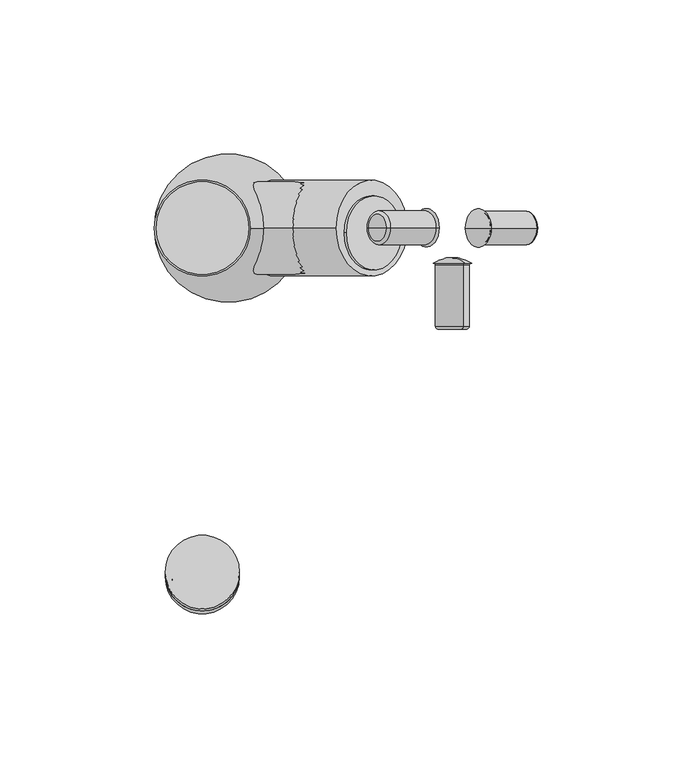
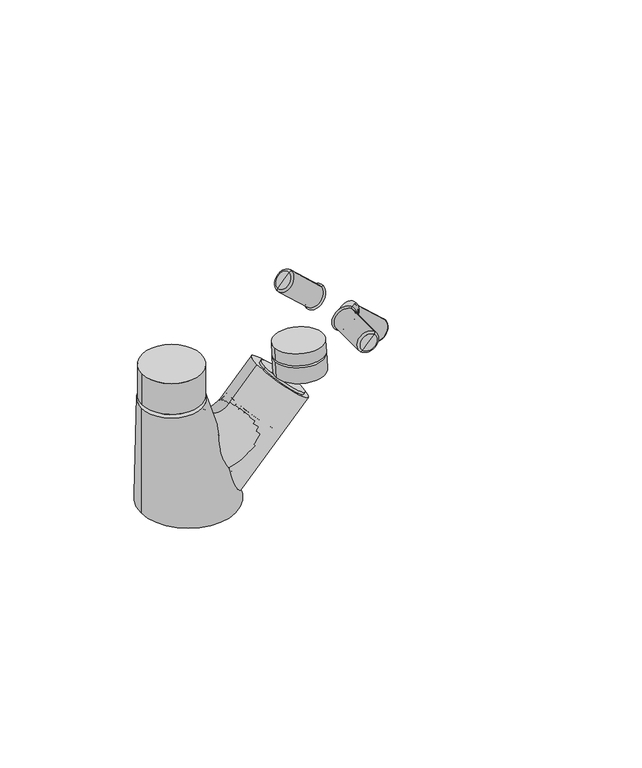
"""IFC4 building model written with IfcOpenShell, lengths in millimetres: flow terminal geometry, Torneira de mesa para copas e áreas de serviço : Torneira de mesa para copas e áreas de serviço."""

from ifc_helpers import new_model, si_unit, point, frame, frame_2d, origin, origin_2d, place, context, project, spatial, circle_curve, ellipse_curve, trimmed, segment, composite_curve, outline, extrude, source, transform, mapped, element, save
from ifc_brep_helpers import plane_surface, cylinder_surface, revolved_surface, spline_curve, spline_surface, advanced_brep


def flow_terminal_f574be0a(model_context):
    return source(origin(), model_context, "Body", "SolidModel", [
        extrude(outline(composite_curve([segment(trimmed(circle_curve(origin_2d(), 12.0), [point((-12.0, 0.0))], [point((12.0, 0.0))], False, "CARTESIAN"), True, "CONTINUOUS"), segment(trimmed(circle_curve(origin_2d(), 12.0), [point((12.0, 0.0))], [point((-12.0, 0.0))], False, "CARTESIAN"), True, "CONTINUOUS")], self_intersect=False)), frame((-8.4551298, -113.0675793, 139.476141), z_axis=(0.0, 0.10570911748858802, 0.9943970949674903), x_axis=(1.0, 0.0, 0.0)), (0.0, 0.0, 1.0), 7.9728756),
        extrude(outline(composite_curve([segment(trimmed(circle_curve(origin_2d(), 10.0), [point((-10.0, 0.0))], [point((10.0, 0.0))], False, "CARTESIAN"), True, "CONTINUOUS"), segment(trimmed(circle_curve(origin_2d(), 10.0), [point((10.0, 0.0))], [point((-10.0, 0.0))], False, "CARTESIAN"), True, "CONTINUOUS")], self_intersect=False)), frame((-8.4551298, -112.2247736, 147.4043454), z_axis=(0.0, 0.10570911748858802, 0.9943970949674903), x_axis=(1.0, 0.0, 0.0)), (0.0, 0.0, 1.0), 1.0255378),
        extrude(outline(composite_curve([segment(trimmed(circle_curve(origin_2d(), 12.0), [point((-12.0, 0.0))], [point((12.0, 0.0))], False, "CARTESIAN"), True, "CONTINUOUS"), segment(trimmed(circle_curve(origin_2d(), 12.0), [point((12.0, 0.0))], [point((-12.0, 0.0))], False, "CARTESIAN"), True, "CONTINUOUS")], self_intersect=False)), frame((-8.4551298, -112.1145402, 148.4413025), z_axis=(0.0, 0.10570911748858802, 0.9943970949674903), x_axis=(1.0, 0.0, 0.0)), (0.0, 0.0, 1.0), 6.0),
        advanced_brep(
        [(22.7675218, 0.0, 44.4138419), (45.0255071, 0.0, 24.2996159), (6.5448702, 0.0, 48.0435906), (-23.4551298, 0.0, 48.0435906)],
        [
            (0, 1, spline_curve(3, [(22.7675218, 0.0, 44.4138419), (22.7675218, -1.963495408, 44.4138419), (23.057254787, -3.926533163, 44.152014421), (24.172077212, -7.553969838, 43.144565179), (24.997166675, -9.218368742, 42.398943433), (27.057089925, -11.994834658, 40.537419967), (28.291923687, -13.106901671, 39.421518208), (30.983343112, -14.609484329, 36.989320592), (32.439928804, -15.0, 35.673024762), (35.353100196, -15.0, 33.040433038), (36.809685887, -14.609484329, 31.724137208), (39.501105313, -13.106901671, 29.291939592), (40.735939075, -11.994834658, 28.176037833), (42.795862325, -9.218368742, 26.314514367), (43.620951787, -7.553969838, 25.568892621), (44.735774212, -3.926533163, 24.561443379), (45.0255071, -1.963495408, 24.2996159), (45.0255071, 0.0, 24.2996159)], [4, 2, 2, 2, 2, 2, 2, 2, 4], [0.0, 0.125, 0.25, 0.375, 0.5, 0.625, 0.75, 0.875, 1.0])),
            (1, 0, spline_curve(3, [(45.0255071, 0.0, 24.2996159), (45.0255071, 1.963495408, 24.2996159), (44.735774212, 3.926533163, 24.561443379), (43.620951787, 7.553969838, 25.568892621), (42.795862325, 9.218368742, 26.314514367), (40.735939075, 11.994834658, 28.176037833), (39.501105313, 13.106901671, 29.291939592), (36.809685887, 14.609484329, 31.724137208), (35.353100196, 15.0, 33.040433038), (32.439928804, 15.0, 35.673024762), (30.983343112, 14.609484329, 36.989320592), (28.291923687, 13.106901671, 39.421518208), (27.057089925, 11.994834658, 40.537419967), (24.997166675, 9.218368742, 42.398943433), (24.172077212, 7.553969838, 43.144565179), (23.057254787, 3.926533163, 44.152014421), (22.7675218, 1.963495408, 44.4138419), (22.7675218, 0.0, 44.4138419)], [4, 2, 2, 2, 2, 2, 2, 2, 4], [0.0, 0.125, 0.25, 0.375, 0.5, 0.625, 0.75, 0.875, 1.0])),
            (2, 3, spline_curve(3, [(6.5448702, 0.0, 48.0435906), (6.5448702, 1.963495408, 48.0435906), (6.15435925, 3.926533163, 48.0435906), (4.65176715, 7.553969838, 48.0435906), (3.539685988, 9.218368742, 48.0435906), (0.763257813, 11.994834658, 48.0435906), (-0.901089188, 13.106901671, 48.0435906), (-4.528667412, 14.609484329, 48.0435906), (-6.491898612, 15.0, 48.0435906), (-10.418360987, 15.0, 48.0435906), (-12.381592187, 14.609484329, 48.0435906), (-16.009170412, 13.106901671, 48.0435906), (-17.673517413, 11.994834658, 48.0435906), (-20.449945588, 9.218368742, 48.0435906), (-21.56202675, 7.553969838, 48.0435906), (-23.06461885, 3.926533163, 48.0435906), (-23.4551298, 1.963495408, 48.0435906), (-23.4551298, 0.0, 48.0435906)], [4, 2, 2, 2, 2, 2, 2, 2, 4], [0.0, 0.125, 0.25, 0.375, 0.5, 0.625, 0.75, 0.875, 1.0])),
            (3, 2, spline_curve(3, [(-23.4551298, 0.0, 48.0435906), (-23.4551298, -1.963495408, 48.0435906), (-23.06461885, -3.926533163, 48.0435906), (-21.56202675, -7.553969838, 48.0435906), (-20.449945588, -9.218368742, 48.0435906), (-17.673517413, -11.994834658, 48.0435906), (-16.009170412, -13.106901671, 48.0435906), (-12.381592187, -14.609484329, 48.0435906), (-10.418360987, -15.0, 48.0435906), (-6.491898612, -15.0, 48.0435906), (-4.528667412, -14.609484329, 48.0435906), (-0.901089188, -13.106901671, 48.0435906), (0.763257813, -11.994834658, 48.0435906), (3.539685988, -9.218368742, 48.0435906), (4.65176715, -7.553969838, 48.0435906), (6.15435925, -3.926533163, 48.0435906), (6.5448702, -1.963495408, 48.0435906), (6.5448702, 0.0, 48.0435906)], [4, 2, 2, 2, 2, 2, 2, 2, 4], [0.0, 0.125, 0.25, 0.375, 0.5, 0.625, 0.75, 0.875, 1.0])),
            (0, 2, spline_curve(3, [(22.7675218, 0.0, 44.4138419), (21.358541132, 0.0, 42.854693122), (20.102948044, 0.0, 41.876241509), (18.002665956, 0.0, 40.600103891), (17.157976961, 0.0, 40.302417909), (15.644225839, 0.0, 39.980769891), (14.975163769, 0.0, 39.956807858), (13.562130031, 0.0, 40.136563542), (12.818158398, 0.0, 40.340281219), (11.293728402, 0.0, 41.035974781), (10.513270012, 0.0, 41.527950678), (9.089014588, 0.0, 42.734288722), (8.445217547, 0.0, 43.448650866), (7.435656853, 0.0, 44.917552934), (7.069893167, 0.0, 45.672092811), (6.624499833, 0.0, 47.002627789), (6.5448702, 0.0, 47.578622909), (6.5448702, 0.0, 48.0435906)], [4, 2, 2, 2, 2, 2, 2, 2, 4], [0.0, 0.010112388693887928, 0.020224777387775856, 0.030337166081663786, 0.04044955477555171, 0.05056194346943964, 0.06067433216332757, 0.07078672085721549, 0.08089910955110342])),
            (3, 1, spline_curve(3, [(-23.4551298, 0.0, 48.0435906), (-23.4551298, 0.0, 44.142619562), (-22.784690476, 0.0, 40.381911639), (-20.461487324, 0.0, 33.377963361), (-18.808723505, 0.0, 30.134723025), (-14.744450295, 0.0, 24.227438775), (-12.332940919, 0.0, 21.563394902), (-6.841484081, 0.0, 16.912746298), (-3.761536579, 0.0, 14.926141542), (3.008264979, 0.0, 11.844950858), (6.698119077, 0.0, 10.750364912), (14.494477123, 0.0, 9.794241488), (18.600980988, 0.0, 9.932704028), (26.748422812, 0.0, 11.677084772), (30.789360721, 0.0, 13.283002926), (38.338713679, 0.0, 17.835704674), (41.847128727, 0.0, 20.782488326), (45.0255071, 0.0, 24.2996159)], [4, 2, 2, 2, 2, 2, 2, 2, 4], [0.0, 0.010112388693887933, 0.020224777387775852, 0.030337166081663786, 0.04044955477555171, 0.05056194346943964, 0.06067433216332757, 0.07078672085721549, 0.08089910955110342])),
        ],
        [
            plane_surface(frame((33.8965145, 0.0, 34.3567289), z_axis=(0.6704742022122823, 0.0, 0.741932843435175), x_axis=(0.0, -1.0, 0.0))),
            plane_surface(frame((-8.4551298, 0.0, 48.0435906), z_axis=(0.0, 0.0, 1.0), x_axis=(0.0, -1.0, 0.0))),
            spline_surface(3, 3, [[(22.7675218, 0.0, 44.4138419), (22.7675218, -1.963495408, 44.4138419), (23.057254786, -3.926533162, 44.152014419), (24.172077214, -7.553969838, 43.144565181), (24.997166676, -9.218368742, 42.398943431), (27.057089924, -11.994834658, 40.537419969), (28.291923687, -13.106901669, 39.421518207), (30.983343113, -14.609484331, 36.989320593), (32.439928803, -15.0, 35.673024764), (35.353100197, -15.0, 33.040433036), (36.809685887, -14.609484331, 31.724137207), (39.501105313, -13.106901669, 29.291939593), (40.735939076, -11.994834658, 28.176037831), (42.795862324, -9.218368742, 26.314514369), (43.620951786, -7.553969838, 25.568892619), (44.735774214, -3.926533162, 24.561443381), (45.0255071, -1.963495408, 24.2996159), (45.0255071, 0.0, 24.2996159)], [(21.358541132, 0.0, 42.854693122), (21.358541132, -1.963495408, 42.854693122), (21.625247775, -3.926533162, 42.567385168), (22.651435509, -7.553969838, 41.461854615), (23.410951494, -9.218368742, 40.643670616), (25.307099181, -11.994834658, 38.600916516), (26.443795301, -13.106901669, 37.376417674), (28.921231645, -14.609484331, 34.70743082), (30.262056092, -15.0, 33.263036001), (32.943613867, -15.0, 30.374145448), (34.284438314, -14.609484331, 28.929750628), (36.761874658, -13.106901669, 26.260763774), (37.898570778, -11.994834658, 25.036264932), (39.794718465, -9.218368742, 22.993510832), (40.55423445, -7.553969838, 22.175326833), (41.580422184, -3.926533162, 21.069796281), (41.847128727, -1.963495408, 20.782488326), (41.847128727, 0.0, 20.782488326)], [(20.102948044, 0.0, 41.876241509), (20.102948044, -1.963495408, 41.876241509), (20.340347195, -3.926533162, 41.563132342), (21.253664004, -7.553969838, 40.359373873), (21.929719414, -9.218368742, 39.467714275), (23.617308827, -11.994834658, 37.243458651), (24.629097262, -13.106901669, 35.908995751), (26.834039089, -14.609484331, 33.002865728), (28.027524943, -15.0, 31.428759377), (30.41413678, -15.0, 28.283186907), (31.607622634, -14.609484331, 26.709080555), (33.812564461, -13.106901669, 23.802950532), (34.824352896, -11.994834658, 22.468487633), (36.511942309, -9.218368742, 20.244232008), (37.187997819, -7.553969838, 19.352572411), (38.101314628, -3.926533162, 18.148813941), (38.338713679, -1.963495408, 17.835704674), (38.338713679, 0.0, 17.835704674)], [(18.002665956, 0.0, 40.600103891), (18.002665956, -1.963495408, 40.600103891), (18.169087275, -3.926533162, 40.244689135), (18.809573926, -7.553969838, 38.87612825), (19.283501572, -9.218368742, 37.863992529), (20.466966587, -11.994834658, 35.335221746), (21.176249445, -13.106901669, 33.820453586), (22.722521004, -14.609484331, 30.516455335), (23.559177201, -15.0, 28.729664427), (25.232849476, -15.0, 25.15344249), (26.069505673, -14.609484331, 23.366651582), (27.615777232, -13.106901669, 20.062653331), (28.32506009, -11.994834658, 18.547885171), (29.508525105, -9.218368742, 16.019114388), (29.982452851, -7.553969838, 15.006978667), (30.622939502, -3.926533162, 13.638417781), (30.789360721, -1.963495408, 13.283002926), (30.789360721, 0.0, 13.283002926)], [(17.157976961, 0.0, 40.302417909), (17.157976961, -1.963495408, 40.302417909), (17.28259865, -3.926533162, 39.92980628), (17.763384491, -7.553969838, 38.496055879), (18.118277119, -9.218368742, 37.434947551), (19.006653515, -11.994834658, 34.785722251), (19.537787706, -13.106901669, 33.197661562), (20.698507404, -14.609484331, 29.736281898), (21.325022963, -15.0, 27.863036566), (22.581376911, -15.0, 24.116466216), (23.207892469, -14.609484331, 22.243220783), (24.368612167, -13.106901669, 18.78184112), (24.899746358, -11.994834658, 17.193780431), (25.788122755, -9.218368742, 14.54455513), (26.143015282, -7.553969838, 13.483446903), (26.623801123, -3.926533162, 12.049696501), (26.748422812, -1.963495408, 11.677084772), (26.748422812, 0.0, 11.677084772)], [(15.644225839, 0.0, 39.980769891), (15.644225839, -1.963495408, 39.980769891), (15.682931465, -3.926533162, 39.589628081), (15.830589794, -7.553969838, 38.08463896), (15.940814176, -9.218368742, 36.970761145), (16.213651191, -11.994834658, 34.189903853), (16.378613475, -13.106901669, 32.522868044), (16.735092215, -14.609484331, 28.889502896), (16.92967856, -15.0, 26.923100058), (17.315528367, -15.0, 22.990373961), (17.510114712, -14.609484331, 21.023971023), (17.866593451, -13.106901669, 17.390605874), (18.031555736, -11.994834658, 15.723570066), (18.304392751, -9.218368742, 12.942712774), (18.414617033, -7.553969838, 11.828835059), (18.562275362, -3.926533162, 10.323845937), (18.600980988, -1.963495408, 9.932704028), (18.600980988, 0.0, 9.932704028)], [(14.975163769, 0.0, 39.956807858), (14.975163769, -1.963495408, 39.956807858), (14.968919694, -3.926533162, 39.564316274), (14.944817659, -7.553969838, 38.053310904), (14.927036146, -9.218368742, 36.935589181), (14.882501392, -11.994834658, 34.143615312), (14.855889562, -13.106901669, 32.47082672), (14.797702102, -14.609484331, 28.822937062), (14.766311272, -15.0, 26.849748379), (14.703329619, -15.0, 22.901301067), (14.67193869, -14.609484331, 20.928112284), (14.61375123, -13.106901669, 17.280222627), (14.587139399, -11.994834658, 15.607434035), (14.542604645, -9.218368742, 12.815460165), (14.524823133, -7.553969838, 11.697738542), (14.500721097, -3.926533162, 10.186733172), (14.494477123, -1.963495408, 9.794241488), (14.494477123, 0.0, 9.794241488)], [(13.562130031, 0.0, 40.136563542), (13.562130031, -1.963495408, 40.136563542), (13.47276785, -3.926533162, 39.753907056), (13.129000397, -7.553969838, 38.282328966), (12.874518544, -9.218368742, 37.192615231), (12.239319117, -11.994834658, 34.473493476), (11.858460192, -13.106901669, 32.8426218), (11.028532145, -14.609484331, 29.289918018), (10.579278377, -15.0, 27.366173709), (9.680970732, -15.0, 23.520754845), (9.231716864, -14.609484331, 21.597010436), (8.401788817, -13.106901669, 18.044306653), (8.020929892, -11.994834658, 16.413434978), (7.385730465, -9.218368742, 13.694313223), (7.131248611, -7.553969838, 12.604599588), (6.787481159, -3.926533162, 11.133021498), (6.698119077, -1.963495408, 10.750364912), (6.698119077, 0.0, 10.750364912)], [(12.818158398, 0.0, 40.340281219), (12.818158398, -1.963495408, 40.340281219), (12.690523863, -3.926533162, 39.969366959), (12.199059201, -7.553969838, 38.542117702), (11.835586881, -9.218368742, 37.485843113), (10.927478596, -11.994834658, 34.848630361), (10.383503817, -13.106901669, 33.267803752), (9.197003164, -14.609484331, 29.822119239), (8.555341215, -15.0, 27.957407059), (7.271082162, -15.0, 24.227825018), (6.629420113, -14.609484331, 22.363112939), (5.44291946, -13.106901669, 18.917428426), (4.898944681, -11.994834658, 17.336601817), (3.990836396, -9.218368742, 14.699389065), (3.627364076, -7.553969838, 13.643114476), (3.135899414, -3.926533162, 12.215865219), (3.008264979, -1.963495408, 11.844950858), (3.008264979, 0.0, 11.844950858)], [(11.293728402, 0.0, 41.035974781), (11.293728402, -1.963495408, 41.035974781), (11.097692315, -3.926533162, 40.696091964), (10.343750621, -7.553969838, 39.388364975), (9.785487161, -9.218368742, 38.420460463), (8.392384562, -11.994834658, 36.004096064), (7.55688424, -13.106901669, 34.555524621), (5.736707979, -14.609484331, 31.398392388), (4.751168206, -15.0, 29.689685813), (2.781023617, -15.0, 26.272430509), (1.795483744, -14.609484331, 24.563724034), (-0.024692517, -13.106901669, 21.406591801), (-0.860192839, -11.994834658, 19.958020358), (-2.253295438, -9.218368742, 17.54165596), (-2.811558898, -7.553969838, 16.573751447), (-3.565500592, -3.926533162, 15.266024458), (-3.761536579, -1.963495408, 14.926141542), (-3.761536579, 0.0, 14.926141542)], [(10.513270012, 0.0, 41.527950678), (10.513270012, -1.963495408, 41.527950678), (10.28738028, -3.926533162, 41.207521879), (9.418107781, -7.553969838, 39.974658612), (8.77482821, -9.218368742, 39.062154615), (7.168622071, -11.994834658, 36.784120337), (6.205886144, -13.106901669, 35.418461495), (4.107276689, -14.609484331, 32.442066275), (2.971652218, -15.0, 30.831161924), (0.700133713, -15.0, 27.609534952), (-0.435490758, -14.609484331, 25.998630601), (-2.534100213, -13.106901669, 23.022235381), (-3.49683614, -11.994834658, 21.656576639), (-5.103042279, -9.218368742, 19.378542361), (-5.74632185, -7.553969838, 18.466038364), (-6.615594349, -3.926533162, 17.233175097), (-6.841484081, -1.963495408, 16.912746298), (-6.841484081, 0.0, 16.912746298)], [(9.089014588, 0.0, 42.734288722), (9.089014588, -1.963495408, 42.734288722), (8.810146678, -3.926533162, 42.458718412), (7.737233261, -7.553969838, 41.398320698), (6.943084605, -9.218368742, 40.613562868), (4.960599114, -11.994834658, 38.654203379), (3.772071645, -13.106901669, 37.479730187), (1.181829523, -14.609484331, 34.919703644), (-0.220134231, -15.0, 33.534318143), (-3.0237921, -15.0, 30.763365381), (-4.425755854, -14.609484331, 29.37797988), (-7.015997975, -13.106901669, 26.817953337), (-8.204525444, -11.994834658, 25.643480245), (-10.187010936, -9.218368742, 23.684120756), (-10.981159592, -7.553969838, 22.899362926), (-12.054073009, -3.926533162, 21.838965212), (-12.332940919, -1.963495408, 21.563394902), (-12.332940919, 0.0, 21.563394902)], [(8.445217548, 0.0, 43.448650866), (8.445217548, -1.963495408, 43.448650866), (8.143388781, -3.926533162, 43.198432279), (6.981837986, -7.553969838, 42.23574179), (6.122302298, -9.218368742, 41.523179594), (3.976036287, -11.994834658, 39.744359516), (2.68965035, -13.106901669, 38.67793477), (-0.114581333, -14.609484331, 36.353794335), (-1.631977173, -15.0, 35.09586056), (-4.667255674, -15.0, 32.580229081), (-6.184651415, -14.609484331, 31.322295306), (-8.988883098, -13.106901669, 28.998154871), (-10.275269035, -11.994834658, 27.931730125), (-12.421535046, -9.218368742, 26.152910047), (-13.281070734, -7.553969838, 25.440347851), (-14.442621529, -3.926533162, 24.477657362), (-14.744450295, -1.963495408, 24.227438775), (-14.744450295, 0.0, 24.227438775)], [(7.435656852, 0.0, 44.917552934), (7.435656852, -1.963495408, 44.917552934), (7.094001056, -3.926533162, 44.725139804), (5.779578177, -7.553969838, 43.984690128), (4.806624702, -9.218368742, 43.436743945), (2.377887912, -11.994834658, 42.068571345), (0.921760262, -13.106901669, 41.248511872), (-2.25153728, -14.609484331, 39.460908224), (-3.969157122, -15.0, 38.493582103), (-7.403909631, -15.0, 36.558693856), (-9.121529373, -14.609484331, 35.591367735), (-12.294826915, -13.106901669, 33.803764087), (-13.750954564, -11.994834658, 32.983704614), (-16.179691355, -9.218368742, 31.615532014), (-17.152644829, -7.553969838, 31.067585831), (-18.467067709, -3.926533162, 30.327136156), (-18.808723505, -1.963495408, 30.134723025), (-18.808723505, 0.0, 30.134723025)], [(7.069893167, 0.0, 45.672092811), (7.069893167, -1.963495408, 45.672092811), (6.711462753, -3.926533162, 45.511964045), (5.332622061, -7.553969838, 44.896386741), (4.311898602, -9.218368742, 44.440378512), (1.764133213, -11.994834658, 43.302939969), (0.236512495, -13.106901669, 42.620475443), (-3.092303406, -14.609484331, 41.134340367), (-4.894254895, -15.0, 40.329318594), (-8.497339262, -15.0, 38.720737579), (-10.299290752, -14.609484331, 37.915715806), (-13.628106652, -13.106901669, 36.42958073), (-15.15572727, -11.994834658, 35.747116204), (-17.703492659, -9.218368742, 34.60967766), (-18.724216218, -7.553969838, 34.153669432), (-20.103056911, -3.926533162, 33.538092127), (-20.461487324, -1.963495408, 33.377963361), (-20.461487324, 0.0, 33.377963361)], [(6.624499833, 0.0, 47.002627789), (6.624499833, -1.963495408, 47.002627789), (6.241733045, -3.926533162, 46.916541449), (4.768625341, -7.553969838, 46.584742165), (3.67859775, -9.218368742, 46.339588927), (0.956649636, -11.994834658, 45.726503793), (-0.674692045, -13.106901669, 45.35960606), (-4.231088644, -14.609484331, 44.55857173), (-6.155387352, -15.0, 44.125786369), (-10.004803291, -15.0, 43.258753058), (-11.929101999, -14.609484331, 42.825967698), (-15.485498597, -13.106901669, 42.024933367), (-17.116840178, -11.994834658, 41.658035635), (-19.838788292, -9.218368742, 41.044950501), (-20.928815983, -7.553969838, 40.799797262), (-22.401923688, -3.926533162, 40.467997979), (-22.784690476, -1.963495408, 40.381911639), (-22.784690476, 0.0, 40.381911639)], [(6.5448702, 0.0, 47.578622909), (6.5448702, -1.963495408, 47.578622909), (6.154359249, -3.926533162, 47.533907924), (4.651767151, -7.553969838, 47.361787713), (3.539685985, -9.218368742, 47.234450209), (0.763257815, -11.994834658, 46.916413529), (-0.901089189, -13.106901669, 46.725839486), (-4.528667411, -14.609484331, 46.310304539), (-6.491898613, -15.0, 46.085507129), (-10.418360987, -15.0, 45.635735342), (-12.381592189, -14.609484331, 45.410937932), (-16.009170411, -13.106901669, 44.995402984), (-17.673517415, -11.994834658, 44.804828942), (-20.449945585, -9.218368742, 44.486792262), (-21.562026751, -7.553969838, 44.359454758), (-23.064618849, -3.926533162, 44.187334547), (-23.4551298, -1.963495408, 44.142619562), (-23.4551298, 0.0, 44.142619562)], [(6.5448702, 0.0, 48.0435906), (6.5448702, -1.963495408, 48.0435906), (6.154359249, -3.926533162, 48.0435906), (4.651767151, -7.553969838, 48.0435906), (3.539685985, -9.218368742, 48.0435906), (0.763257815, -11.994834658, 48.0435906), (-0.901089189, -13.106901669, 48.0435906), (-4.528667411, -14.609484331, 48.0435906), (-6.491898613, -15.0, 48.0435906), (-10.418360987, -15.0, 48.0435906), (-12.381592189, -14.609484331, 48.0435906), (-16.009170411, -13.106901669, 48.0435906), (-17.673517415, -11.994834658, 48.0435906), (-20.449945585, -9.218368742, 48.0435906), (-21.562026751, -7.553969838, 48.0435906), (-23.064618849, -3.926533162, 48.0435906), (-23.4551298, -1.963495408, 48.0435906), (-23.4551298, 0.0, 48.0435906)]], [4, 2, 2, 2, 2, 2, 2, 2, 4], [4, 2, 2, 2, 2, 2, 2, 2, 4], [0.0, 0.010112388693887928, 0.020224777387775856, 0.030337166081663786, 0.04044955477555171, 0.05056194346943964, 0.06067433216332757, 0.07078672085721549, 0.08089910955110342], [0.0, 0.125, 0.25, 0.375, 0.5, 0.625, 0.75, 0.875, 1.0]),
            spline_surface(3, 3, [[(45.0255071, 0.0, 24.2996159), (45.0255071, 1.963495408, 24.2996159), (44.735774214, 3.926533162, 24.561443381), (43.620951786, 7.553969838, 25.568892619), (42.795862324, 9.218368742, 26.314514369), (40.735939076, 11.994834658, 28.176037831), (39.501105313, 13.106901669, 29.291939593), (36.809685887, 14.609484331, 31.724137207), (35.353100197, 15.0, 33.040433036), (32.439928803, 15.0, 35.673024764), (30.983343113, 14.609484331, 36.989320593), (28.291923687, 13.106901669, 39.421518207), (27.057089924, 11.994834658, 40.537419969), (24.997166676, 9.218368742, 42.398943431), (24.172077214, 7.553969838, 43.144565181), (23.057254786, 3.926533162, 44.152014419), (22.7675218, 1.963495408, 44.4138419), (22.7675218, 0.0, 44.4138419)], [(41.847128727, 0.0, 20.782488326), (41.847128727, 1.963495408, 20.782488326), (41.580422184, 3.926533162, 21.069796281), (40.55423445, 7.553969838, 22.175326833), (39.794718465, 9.218368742, 22.993510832), (37.898570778, 11.994834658, 25.036264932), (36.761874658, 13.106901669, 26.260763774), (34.284438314, 14.609484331, 28.929750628), (32.943613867, 15.0, 30.374145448), (30.262056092, 15.0, 33.263036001), (28.921231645, 14.609484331, 34.70743082), (26.443795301, 13.106901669, 37.376417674), (25.307099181, 11.994834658, 38.600916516), (23.410951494, 9.218368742, 40.643670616), (22.651435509, 7.553969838, 41.461854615), (21.625247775, 3.926533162, 42.567385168), (21.358541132, 1.963495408, 42.854693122), (21.358541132, 0.0, 42.854693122)], [(38.338713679, 0.0, 17.835704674), (38.338713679, 1.963495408, 17.835704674), (38.101314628, 3.926533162, 18.148813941), (37.187997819, 7.553969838, 19.352572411), (36.511942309, 9.218368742, 20.244232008), (34.824352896, 11.994834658, 22.468487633), (33.812564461, 13.106901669, 23.802950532), (31.607622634, 14.609484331, 26.709080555), (30.41413678, 15.0, 28.283186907), (28.027524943, 15.0, 31.428759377), (26.834039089, 14.609484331, 33.002865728), (24.629097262, 13.106901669, 35.908995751), (23.617308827, 11.994834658, 37.243458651), (21.929719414, 9.218368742, 39.467714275), (21.253664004, 7.553969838, 40.359373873), (20.340347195, 3.926533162, 41.563132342), (20.102948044, 1.963495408, 41.876241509), (20.102948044, 0.0, 41.876241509)], [(30.789360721, 0.0, 13.283002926), (30.789360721, 1.963495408, 13.283002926), (30.622939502, 3.926533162, 13.638417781), (29.982452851, 7.553969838, 15.006978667), (29.508525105, 9.218368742, 16.019114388), (28.32506009, 11.994834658, 18.547885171), (27.615777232, 13.106901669, 20.062653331), (26.069505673, 14.609484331, 23.366651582), (25.232849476, 15.0, 25.15344249), (23.559177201, 15.0, 28.729664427), (22.722521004, 14.609484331, 30.516455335), (21.176249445, 13.106901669, 33.820453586), (20.466966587, 11.994834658, 35.335221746), (19.283501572, 9.218368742, 37.863992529), (18.809573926, 7.553969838, 38.87612825), (18.169087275, 3.926533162, 40.244689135), (18.002665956, 1.963495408, 40.600103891), (18.002665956, 0.0, 40.600103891)], [(26.748422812, 0.0, 11.677084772), (26.748422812, 1.963495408, 11.677084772), (26.623801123, 3.926533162, 12.049696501), (26.143015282, 7.553969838, 13.483446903), (25.788122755, 9.218368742, 14.54455513), (24.899746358, 11.994834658, 17.193780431), (24.368612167, 13.106901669, 18.78184112), (23.207892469, 14.609484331, 22.243220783), (22.581376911, 15.0, 24.116466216), (21.325022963, 15.0, 27.863036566), (20.698507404, 14.609484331, 29.736281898), (19.537787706, 13.106901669, 33.197661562), (19.006653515, 11.994834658, 34.785722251), (18.118277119, 9.218368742, 37.434947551), (17.763384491, 7.553969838, 38.496055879), (17.28259865, 3.926533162, 39.92980628), (17.157976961, 1.963495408, 40.302417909), (17.157976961, 0.0, 40.302417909)], [(18.600980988, 0.0, 9.932704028), (18.600980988, 1.963495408, 9.932704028), (18.562275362, 3.926533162, 10.323845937), (18.414617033, 7.553969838, 11.828835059), (18.304392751, 9.218368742, 12.942712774), (18.031555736, 11.994834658, 15.723570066), (17.866593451, 13.106901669, 17.390605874), (17.510114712, 14.609484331, 21.023971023), (17.315528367, 15.0, 22.990373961), (16.92967856, 15.0, 26.923100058), (16.735092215, 14.609484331, 28.889502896), (16.378613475, 13.106901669, 32.522868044), (16.213651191, 11.994834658, 34.189903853), (15.940814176, 9.218368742, 36.970761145), (15.830589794, 7.553969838, 38.08463896), (15.682931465, 3.926533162, 39.589628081), (15.644225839, 1.963495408, 39.980769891), (15.644225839, 0.0, 39.980769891)], [(14.494477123, 0.0, 9.794241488), (14.494477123, 1.963495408, 9.794241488), (14.500721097, 3.926533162, 10.186733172), (14.524823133, 7.553969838, 11.697738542), (14.542604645, 9.218368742, 12.815460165), (14.587139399, 11.994834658, 15.607434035), (14.61375123, 13.106901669, 17.280222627), (14.67193869, 14.609484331, 20.928112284), (14.703329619, 15.0, 22.901301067), (14.766311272, 15.0, 26.849748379), (14.797702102, 14.609484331, 28.822937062), (14.855889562, 13.106901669, 32.47082672), (14.882501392, 11.994834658, 34.143615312), (14.927036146, 9.218368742, 36.935589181), (14.944817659, 7.553969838, 38.053310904), (14.968919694, 3.926533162, 39.564316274), (14.975163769, 1.963495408, 39.956807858), (14.975163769, 0.0, 39.956807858)], [(6.698119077, 0.0, 10.750364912), (6.698119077, 1.963495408, 10.750364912), (6.787481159, 3.926533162, 11.133021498), (7.131248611, 7.553969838, 12.604599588), (7.385730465, 9.218368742, 13.694313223), (8.020929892, 11.994834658, 16.413434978), (8.401788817, 13.106901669, 18.044306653), (9.231716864, 14.609484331, 21.597010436), (9.680970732, 15.0, 23.520754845), (10.579278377, 15.0, 27.366173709), (11.028532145, 14.609484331, 29.289918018), (11.858460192, 13.106901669, 32.8426218), (12.239319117, 11.994834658, 34.473493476), (12.874518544, 9.218368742, 37.192615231), (13.129000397, 7.553969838, 38.282328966), (13.47276785, 3.926533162, 39.753907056), (13.562130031, 1.963495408, 40.136563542), (13.562130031, 0.0, 40.136563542)], [(3.008264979, 0.0, 11.844950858), (3.008264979, 1.963495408, 11.844950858), (3.135899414, 3.926533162, 12.215865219), (3.627364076, 7.553969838, 13.643114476), (3.990836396, 9.218368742, 14.699389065), (4.898944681, 11.994834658, 17.336601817), (5.44291946, 13.106901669, 18.917428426), (6.629420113, 14.609484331, 22.363112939), (7.271082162, 15.0, 24.227825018), (8.555341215, 15.0, 27.957407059), (9.197003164, 14.609484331, 29.822119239), (10.383503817, 13.106901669, 33.267803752), (10.927478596, 11.994834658, 34.848630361), (11.835586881, 9.218368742, 37.485843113), (12.199059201, 7.553969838, 38.542117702), (12.690523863, 3.926533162, 39.969366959), (12.818158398, 1.963495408, 40.340281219), (12.818158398, 0.0, 40.340281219)], [(-3.761536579, 0.0, 14.926141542), (-3.761536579, 1.963495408, 14.926141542), (-3.565500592, 3.926533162, 15.266024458), (-2.811558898, 7.553969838, 16.573751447), (-2.253295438, 9.218368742, 17.54165596), (-0.860192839, 11.994834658, 19.958020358), (-0.024692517, 13.106901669, 21.406591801), (1.795483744, 14.609484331, 24.563724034), (2.781023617, 15.0, 26.272430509), (4.751168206, 15.0, 29.689685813), (5.736707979, 14.609484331, 31.398392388), (7.55688424, 13.106901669, 34.555524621), (8.392384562, 11.994834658, 36.004096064), (9.785487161, 9.218368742, 38.420460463), (10.343750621, 7.553969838, 39.388364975), (11.097692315, 3.926533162, 40.696091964), (11.293728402, 1.963495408, 41.035974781), (11.293728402, 0.0, 41.035974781)], [(-6.841484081, 0.0, 16.912746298), (-6.841484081, 1.963495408, 16.912746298), (-6.615594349, 3.926533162, 17.233175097), (-5.74632185, 7.553969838, 18.466038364), (-5.103042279, 9.218368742, 19.378542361), (-3.49683614, 11.994834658, 21.656576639), (-2.534100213, 13.106901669, 23.022235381), (-0.435490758, 14.609484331, 25.998630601), (0.700133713, 15.0, 27.609534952), (2.971652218, 15.0, 30.831161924), (4.107276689, 14.609484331, 32.442066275), (6.205886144, 13.106901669, 35.418461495), (7.168622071, 11.994834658, 36.784120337), (8.77482821, 9.218368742, 39.062154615), (9.418107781, 7.553969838, 39.974658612), (10.28738028, 3.926533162, 41.207521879), (10.513270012, 1.963495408, 41.527950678), (10.513270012, 0.0, 41.527950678)], [(-12.332940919, 0.0, 21.563394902), (-12.332940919, 1.963495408, 21.563394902), (-12.054073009, 3.926533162, 21.838965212), (-10.981159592, 7.553969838, 22.899362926), (-10.187010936, 9.218368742, 23.684120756), (-8.204525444, 11.994834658, 25.643480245), (-7.015997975, 13.106901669, 26.817953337), (-4.425755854, 14.609484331, 29.37797988), (-3.0237921, 15.0, 30.763365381), (-0.220134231, 15.0, 33.534318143), (1.181829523, 14.609484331, 34.919703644), (3.772071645, 13.106901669, 37.479730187), (4.960599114, 11.994834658, 38.654203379), (6.943084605, 9.218368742, 40.613562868), (7.737233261, 7.553969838, 41.398320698), (8.810146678, 3.926533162, 42.458718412), (9.089014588, 1.963495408, 42.734288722), (9.089014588, 0.0, 42.734288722)], [(-14.744450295, 0.0, 24.227438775), (-14.744450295, 1.963495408, 24.227438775), (-14.442621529, 3.926533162, 24.477657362), (-13.281070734, 7.553969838, 25.440347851), (-12.421535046, 9.218368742, 26.152910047), (-10.275269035, 11.994834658, 27.931730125), (-8.988883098, 13.106901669, 28.998154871), (-6.184651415, 14.609484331, 31.322295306), (-4.667255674, 15.0, 32.580229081), (-1.631977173, 15.0, 35.09586056), (-0.114581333, 14.609484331, 36.353794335), (2.68965035, 13.106901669, 38.67793477), (3.976036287, 11.994834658, 39.744359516), (6.122302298, 9.218368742, 41.523179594), (6.981837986, 7.553969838, 42.23574179), (8.143388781, 3.926533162, 43.198432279), (8.445217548, 1.963495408, 43.448650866), (8.445217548, 0.0, 43.448650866)], [(-18.808723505, 0.0, 30.134723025), (-18.808723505, 1.963495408, 30.134723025), (-18.467067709, 3.926533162, 30.327136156), (-17.152644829, 7.553969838, 31.067585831), (-16.179691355, 9.218368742, 31.615532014), (-13.750954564, 11.994834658, 32.983704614), (-12.294826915, 13.106901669, 33.803764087), (-9.121529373, 14.609484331, 35.591367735), (-7.403909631, 15.0, 36.558693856), (-3.969157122, 15.0, 38.493582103), (-2.25153728, 14.609484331, 39.460908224), (0.921760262, 13.106901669, 41.248511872), (2.377887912, 11.994834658, 42.068571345), (4.806624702, 9.218368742, 43.436743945), (5.779578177, 7.553969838, 43.984690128), (7.094001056, 3.926533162, 44.725139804), (7.435656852, 1.963495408, 44.917552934), (7.435656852, 0.0, 44.917552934)], [(-20.461487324, 0.0, 33.377963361), (-20.461487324, 1.963495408, 33.377963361), (-20.103056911, 3.926533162, 33.538092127), (-18.724216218, 7.553969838, 34.153669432), (-17.703492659, 9.218368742, 34.60967766), (-15.15572727, 11.994834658, 35.747116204), (-13.628106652, 13.106901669, 36.42958073), (-10.299290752, 14.609484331, 37.915715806), (-8.497339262, 15.0, 38.720737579), (-4.894254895, 15.0, 40.329318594), (-3.092303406, 14.609484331, 41.134340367), (0.236512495, 13.106901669, 42.620475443), (1.764133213, 11.994834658, 43.302939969), (4.311898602, 9.218368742, 44.440378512), (5.332622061, 7.553969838, 44.896386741), (6.711462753, 3.926533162, 45.511964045), (7.069893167, 1.963495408, 45.672092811), (7.069893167, 0.0, 45.672092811)], [(-22.784690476, 0.0, 40.381911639), (-22.784690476, 1.963495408, 40.381911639), (-22.401923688, 3.926533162, 40.467997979), (-20.928815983, 7.553969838, 40.799797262), (-19.838788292, 9.218368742, 41.044950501), (-17.116840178, 11.994834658, 41.658035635), (-15.485498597, 13.106901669, 42.024933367), (-11.929101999, 14.609484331, 42.825967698), (-10.004803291, 15.0, 43.258753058), (-6.155387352, 15.0, 44.125786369), (-4.231088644, 14.609484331, 44.55857173), (-0.674692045, 13.106901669, 45.35960606), (0.956649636, 11.994834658, 45.726503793), (3.67859775, 9.218368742, 46.339588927), (4.768625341, 7.553969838, 46.584742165), (6.241733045, 3.926533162, 46.916541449), (6.624499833, 1.963495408, 47.002627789), (6.624499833, 0.0, 47.002627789)], [(-23.4551298, 0.0, 44.142619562), (-23.4551298, 1.963495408, 44.142619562), (-23.064618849, 3.926533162, 44.187334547), (-21.562026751, 7.553969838, 44.359454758), (-20.449945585, 9.218368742, 44.486792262), (-17.673517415, 11.994834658, 44.804828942), (-16.009170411, 13.106901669, 44.995402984), (-12.381592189, 14.609484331, 45.410937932), (-10.418360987, 15.0, 45.635735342), (-6.491898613, 15.0, 46.085507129), (-4.528667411, 14.609484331, 46.310304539), (-0.901089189, 13.106901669, 46.725839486), (0.763257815, 11.994834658, 46.916413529), (3.539685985, 9.218368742, 47.234450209), (4.651767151, 7.553969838, 47.361787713), (6.154359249, 3.926533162, 47.533907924), (6.5448702, 1.963495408, 47.578622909), (6.5448702, 0.0, 47.578622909)], [(-23.4551298, 0.0, 48.0435906), (-23.4551298, 1.963495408, 48.0435906), (-23.064618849, 3.926533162, 48.0435906), (-21.562026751, 7.553969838, 48.0435906), (-20.449945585, 9.218368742, 48.0435906), (-17.673517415, 11.994834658, 48.0435906), (-16.009170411, 13.106901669, 48.0435906), (-12.381592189, 14.609484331, 48.0435906), (-10.418360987, 15.0, 48.0435906), (-6.491898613, 15.0, 48.0435906), (-4.528667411, 14.609484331, 48.0435906), (-0.901089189, 13.106901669, 48.0435906), (0.763257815, 11.994834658, 48.0435906), (3.539685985, 9.218368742, 48.0435906), (4.651767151, 7.553969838, 48.0435906), (6.154359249, 3.926533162, 48.0435906), (6.5448702, 1.963495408, 48.0435906), (6.5448702, 0.0, 48.0435906)]], [4, 2, 2, 2, 2, 2, 2, 2, 4], [4, 2, 2, 2, 2, 2, 2, 2, 4], [0.0, 0.010112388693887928, 0.020224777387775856, 0.030337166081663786, 0.04044955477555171, 0.05056194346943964, 0.06067433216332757, 0.07078672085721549, 0.08089910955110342], [0.0, 0.125, 0.25, 0.375, 0.5, 0.625, 0.75, 0.875, 1.0]),
        ],
        [
            (0, [[1, 2]]),
            (1, [[3, 4]]),
            (2, [[-1, 5, -4, 6]]),
            (3, [[-2, -6, -3, -5]]),
        ],
    ),
        extrude(outline(composite_curve([segment(trimmed(circle_curve(frame_2d((-8.4551298, 0.0)), 15.0), [point((-23.4551298, 0.0))], [point((6.5448702, 0.0))], False, "CARTESIAN"), True, "CONTINUOUS"), segment(trimmed(circle_curve(frame_2d((-8.4551298, 0.0)), 15.0), [point((6.5448702, 0.0))], [point((-23.4551298, 0.0))], False, "CARTESIAN"), True, "CONTINUOUS")], self_intersect=False)), frame((0.0, 0.0, 57.6024664), z_axis=(0.0, 0.0, 1.0), x_axis=(1.0, 0.0, 0.0)), (0.0, 0.0, 1.0), 16.4930661),
        extrude(outline(composite_curve([segment(trimmed(circle_curve(frame_2d((-8.4551298, 0.0)), 13.0), [point((-21.4551298, 0.0))], [point((4.5448702, 0.0))], False, "CARTESIAN"), True, "CONTINUOUS"), segment(trimmed(circle_curve(frame_2d((-8.4551298, 0.0)), 13.0), [point((4.5448702, 0.0))], [point((-21.4551298, 0.0))], False, "CARTESIAN"), True, "CONTINUOUS")], self_intersect=False)), frame((0.0, 0.0, 56.1077311), z_axis=(0.0, 0.0, 1.0), x_axis=(1.0, 0.0, 0.0)), (0.0, 0.0, 1.0), 1.4947353),
        advanced_brep(
        [(7.0896932, 0.0, 56.1077311), (-23.9999528, 0.0, 56.1077311), (24.0, 0.0, -0.1411423), (-24.0, 0.0, -0.1411423)],
        [
            (0, 1, circle_curve(frame((-8.4551298, 0.0, 56.1077311), z_axis=(0.0, 0.0, 1.0), x_axis=(1.0, 0.0, 0.0)), 15.544823)),
            (1, 0, circle_curve(frame((-8.4551298, 0.0, 56.1077311), z_axis=(0.0, 0.0, 1.0), x_axis=(1.0, 0.0, 0.0)), 15.544823)),
            (2, 3, circle_curve(frame((0.0, 0.0, -0.1411423), z_axis=(0.0, 0.0, -1.0), x_axis=(1.0, 0.0, 0.0)), 24.0)),
            (3, 2, circle_curve(frame((0.0, 0.0, -0.1411423), z_axis=(0.0, 0.0, -1.0), x_axis=(1.0, 0.0, 0.0)), 24.0)),
            (3, 1),
            (0, 2),
        ],
        [
            plane_surface(frame((-8.4551298, 0.0, 56.1077311), z_axis=(0.0, 0.0, 1.0), x_axis=(0.0, -1.0, 0.0))),
            plane_surface(frame((0.0, 0.0, -0.1411423), z_axis=(0.0, 0.0, -1.0), x_axis=(0.0, 1.0, 0.0))),
            spline_surface(2, 1, [[(24.0, 0.0, -0.1411423), (7.0896932, 0.0, 56.1077311)], [(24.0, 24.0, -0.1411423), (7.089693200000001, 15.544823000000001, 56.1077311)], [(0.0, 24.0, -0.1411423), (-8.4551298, 15.544823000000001, 56.1077311)], [(-24.0, 24.0, -0.1411423), (-23.999952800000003, 15.544823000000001, 56.1077311)], [(-24.0, 0.0, -0.1411423), (-23.9999528, 0.0, 56.1077311)]], [3, 2, 3], [2, 2], [0.0, 1.0, 2.0], [0.0, 1.0], weights=[[1.0, 1.0], [0.7071067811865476, 0.7071067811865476], [1.0, 1.0], [0.7071067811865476, 0.7071067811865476], [1.0, 1.0]]),
            spline_surface(2, 1, [[(-24.0, 0.0, -0.1411423), (-23.9999528, 0.0, 56.1077311)], [(-24.0, -24.0, -0.1411423), (-23.9999528, -15.544823, 56.1077311)], [(0.0, -24.0, -0.1411423), (-8.4551298, -15.544823, 56.1077311)], [(24.0, -24.0, -0.1411423), (7.089693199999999, -15.544823, 56.1077311)], [(24.0, 0.0, -0.1411423), (7.0896932, 0.0, 56.1077311)]], [3, 2, 3], [2, 2], [0.0, 1.0, 2.0], [0.0, 1.0], weights=[[1.0, 1.0], [0.7071067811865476, 0.7071067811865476], [1.0, 1.0], [0.7071067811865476, 0.7071067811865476], [1.0, 1.0]]),
        ],
        [
            (0, [[1, 2]]),
            (1, [[3, 4]]),
            (2, [[-4, 5, -1, 6]]),
            (3, [[-3, -6, -2, -5]]),
        ],
    ),
        extrude(outline(composite_curve([segment(trimmed(circle_curve(frame_2d((0.0, -12.0)), 12.0), [point((0.0, -24.0))], [point((0.0, 0.0))], False, "CARTESIAN"), True, "CONTINUOUS"), segment(trimmed(circle_curve(frame_2d((0.0, -12.0)), 12.0), [point((0.0, 0.0))], [point((0.0, -24.0))], False, "CARTESIAN"), True, "CONTINUOUS")], self_intersect=False)), frame((55.3431606, -1.5794085, 40.1913622), z_axis=(0.67047420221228, 0.0, 0.7419328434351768), x_axis=(0.0, -1.0, 0.0)), (0.0, 0.0, 1.0), 1.1023198),
        extrude(outline(composite_curve([segment(trimmed(circle_curve(frame_2d((0.0, -15.5000001)), 15.5), [point((0.0, -31.0))], [point((0.0, 0.0))], False, "CARTESIAN"), True, "CONTINUOUS"), segment(trimmed(circle_curve(frame_2d((0.0, -15.5000001)), 15.5), [point((0.0, 0.0))], [point((0.0, -31.0))], False, "CARTESIAN"), True, "CONTINUOUS")], self_intersect=False)), frame((23.6585926, 0.0, -0.0903094), z_axis=(0.6704742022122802, 0.0, 0.7419328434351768), x_axis=(0.0, -1.0, 0.0)), (0.0, 0.0, 1.0), 51.1299805),
        advanced_brep(
        [(77.8933091, 0.0, 64.9489386), (85.248766, 0.0, 73.0883346), (99.8263866, 0.0, 59.9147454), (92.4709297, 0.0, 51.7753494), (99.8978452, 0.0, 58.5023383), (93.8833368, 0.0, 51.846808), (96.890591, 0.0, 55.1745732), (76.814101, 0.0, 64.8943377), (85.1941651, 0.0, 74.1675427), (79.706591, 0.0, 70.7035106)],
        [
            (0, 1, circle_curve(frame((81.5710376, 0.0, 69.0186366), z_axis=(0.7419328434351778, 0.0, -0.6704742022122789), x_axis=(0.6704742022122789, 0.0, 0.7419328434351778)), 5.4852647)),
            (1, 2),
            (2, 3, circle_curve(frame((96.1486582, 0.0, 55.8450474), z_axis=(-0.7419328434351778, 0.0, 0.6704742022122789), x_axis=(0.6704742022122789, 0.0, 0.7419328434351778)), 5.4852647)),
            (3, 0),
            (1, 0, circle_curve(frame((81.5710376, 0.0, 69.0186366), z_axis=(0.7419328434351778, 0.0, -0.6704742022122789), x_axis=(0.6704742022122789, 0.0, 0.7419328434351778)), 5.4852647)),
            (3, 2, circle_curve(frame((96.1486582, 0.0, 55.8450474), z_axis=(-0.7419328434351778, 0.0, 0.6704742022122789), x_axis=(0.6704742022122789, 0.0, 0.7419328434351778)), 5.4852647)),
            (2, 4, circle_curve(frame((99.1559124, 0.0, 59.1728125), z_axis=(0.0, 1.0, 0.0), x_axis=(-0.741932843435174, 0.0, 0.6704742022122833)), 1.0)),
            (4, 5, circle_curve(frame((96.890591, 0.0, 55.1745732), z_axis=(-0.7419328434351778, 0.0, 0.6704742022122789), x_axis=(0.6704742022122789, 0.0, 0.7419328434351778)), 4.4852647)),
            (5, 3, circle_curve(frame((93.1414039, 0.0, 52.5172822), z_axis=(0.0, 1.0, 0.0), x_axis=(-0.7419328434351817, 0.0, 0.6704742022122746)), 1.0)),
            (5, 4, circle_curve(frame((96.890591, 0.0, 55.1745732), z_axis=(-0.7419328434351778, 0.0, 0.6704742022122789), x_axis=(0.6704742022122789, 0.0, 0.7419328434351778)), 4.4852647)),
            (4, 6),
            (6, 5),
            (7, 8, circle_curve(frame((81.004133, 0.0, 69.5309402), z_axis=(0.7419328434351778, 0.0, -0.6704742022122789), x_axis=(0.6704742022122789, 0.0, 0.7419328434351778)), 6.2493561)),
            (8, 1, circle_curve(frame((85.7610696, 0.0, 73.6552391), z_axis=(0.0, -1.0, 0.0), x_axis=(-0.741932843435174, 0.0, 0.6704742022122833)), 0.7640914)),
            (0, 7, circle_curve(frame((77.3810055, 0.0, 64.3820341), z_axis=(0.0, -1.0, 0.0), x_axis=(-0.7419328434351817, 0.0, 0.6704742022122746)), 0.7640914)),
            (8, 7, circle_curve(frame((81.004133, 0.0, 69.5309402), z_axis=(0.7419328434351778, 0.0, -0.6704742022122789), x_axis=(0.6704742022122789, 0.0, 0.7419328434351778)), 6.2493561)),
            (9, 8, circle_curve(frame((89.3974696, 0.0, 61.4302364), z_axis=(0.0, 1.0, 0.0), x_axis=(-0.741932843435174, 0.0, 0.6704742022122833)), 13.4129318)),
            (7, 9, circle_curve(frame((89.9106003, 0.0, 61.9980563), z_axis=(0.0, 1.0, 0.0), x_axis=(-0.7419328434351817, 0.0, 0.6704742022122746)), 13.4129318)),
        ],
        [
            cylinder_surface(frame((79.706591, 0.0, 70.7035106), z_axis=(-0.7419328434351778, 0.0, 0.6704742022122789), x_axis=(0.6704742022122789, 0.0, 0.7419328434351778)), 5.4852647),
            revolved_surface(trimmed(ellipse_curve(frame((99.1559124, 0.0, 59.1728125), z_axis=(0.0, -1.0, 0.0), x_axis=(-0.741932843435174, 0.0, 0.6704742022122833)), 1.0, 1.0), [point((99.8978452, 0.0, 58.5023383))], [point((99.8263866, 0.0, 59.9147454))], True, "CARTESIAN"), (79.706591, 0.0, 70.7035106), (-0.7419328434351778, 0.0, 0.6704742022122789)),
            plane_surface(frame((96.890591, 0.0, 55.1745732), z_axis=(0.7419328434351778, 0.0, -0.6704742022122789), x_axis=(0.6704742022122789, 0.0, 0.7419328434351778))),
            revolved_surface(trimmed(ellipse_curve(frame((85.7610696, 0.0, 73.6552391), z_axis=(0.0, 1.0, 0.0), x_axis=(-0.741932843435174, 0.0, 0.6704742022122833)), 0.7640914, 0.7640914), [point((85.248766, 0.0, 73.0883346))], [point((85.1941651, 0.0, 74.1675427))], True, "CARTESIAN"), (79.706591, 0.0, 70.7035106), (-0.7419328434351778, 0.0, 0.6704742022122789)),
            revolved_surface(trimmed(ellipse_curve(frame((89.3974696, 0.0, 61.4302364), z_axis=(0.0, -1.0, 0.0), x_axis=(-0.741932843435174, 0.0, 0.6704742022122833)), 13.4129318, 13.4129318), [point((85.1941651, 0.0, 74.1675427))], [point((79.706591, 0.0, 70.7035106))], True, "CARTESIAN"), (79.706591, 0.0, 70.7035106), (-0.7419328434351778, 0.0, 0.6704742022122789)),
        ],
        [
            (0, [[1, 2, 3, 4]]),
            (0, [[5, -4, 6, -2]]),
            (1, [[-3, 7, 8, 9]]),
            (1, [[-6, -9, 10, -7]]),
            (2, [[-8, 11, 12]]),
            (2, [[-10, -12, -11]]),
            (3, [[13, 14, -1, 15]]),
            (3, [[16, -15, -5, -14]]),
            (4, [[17, -13, 18]]),
            (4, [[-18, -16, -17]]),
        ],
    ),
        advanced_brep(
        [(45.3143507, 0.0998443, 94.3900819), (52.6698076, 0.0998443, 102.5294779), (67.2474282, 0.0998443, 89.3558886), (59.8919713, 0.0998443, 81.2164926), (45.2428921, 0.0998443, 95.802489), (51.2574006, 0.0998443, 102.4580193), (48.2501463, 0.0998443, 99.1302541), (68.3266363, 0.0998443, 89.4104896), (59.9465723, 0.0998443, 80.1372846), (65.4341463, 0.0998443, 83.6013167)],
        [
            (0, 1, circle_curve(frame((48.9920792, 0.0998443, 98.4597799), z_axis=(0.7419328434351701, 0.0, -0.6704742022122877), x_axis=(0.6704742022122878, 0.0, 0.7419328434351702)), 5.4852647)),
            (1, 2),
            (2, 3, circle_curve(frame((63.5696998, 0.0998443, 85.2861906), z_axis=(-0.7419328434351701, 0.0, 0.6704742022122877), x_axis=(0.6704742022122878, 0.0, 0.7419328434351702)), 5.4852647)),
            (3, 0),
            (1, 0, circle_curve(frame((48.9920792, 0.0998443, 98.4597799), z_axis=(0.7419328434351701, 0.0, -0.6704742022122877), x_axis=(0.6704742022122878, 0.0, 0.7419328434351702)), 5.4852647)),
            (3, 2, circle_curve(frame((63.5696998, 0.0998443, 85.2861906), z_axis=(-0.7419328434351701, 0.0, 0.6704742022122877), x_axis=(0.6704742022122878, 0.0, 0.7419328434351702)), 5.4852647)),
            (4, 5, circle_curve(frame((48.2501463, 0.0998443, 99.1302541), z_axis=(0.7419328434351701, 0.0, -0.6704742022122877), x_axis=(0.6704742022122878, 0.0, 0.7419328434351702)), 4.4852647)),
            (5, 1, circle_curve(frame((51.9993334, 0.0998443, 101.7875451), z_axis=(0.0, 1.0000000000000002, 0.0), x_axis=(0.7419328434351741, 0.0, -0.6704742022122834)), 1.0)),
            (0, 4, circle_curve(frame((45.9848249, 0.0998443, 95.1320147), z_axis=(0.0, 1.0000000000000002, 0.0), x_axis=(0.7419328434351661, 0.0, -0.670474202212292)), 1.0)),
            (5, 4, circle_curve(frame((48.2501463, 0.0998443, 99.1302541), z_axis=(0.7419328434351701, 0.0, -0.6704742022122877), x_axis=(0.6704742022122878, 0.0, 0.7419328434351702)), 4.4852647)),
            (6, 5),
            (4, 6),
            (2, 7, circle_curve(frame((67.7597318, 0.0998443, 89.9227931), z_axis=(0.0, -1.0000000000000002, 0.0), x_axis=(0.7419328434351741, 0.0, -0.6704742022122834)), 0.7640914)),
            (7, 8, circle_curve(frame((64.1366043, 0.0998443, 84.7738871), z_axis=(-0.7419328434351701, 0.0, 0.6704742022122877), x_axis=(0.6704742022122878, 0.0, 0.7419328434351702)), 6.2493561)),
            (8, 3, circle_curve(frame((59.3796677, 0.0998443, 80.6495881), z_axis=(0.0, -1.0000000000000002, 0.0), x_axis=(0.7419328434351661, 0.0, -0.670474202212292)), 0.7640914)),
            (8, 7, circle_curve(frame((64.1366043, 0.0998443, 84.7738871), z_axis=(-0.7419328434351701, 0.0, 0.6704742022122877), x_axis=(0.6704742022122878, 0.0, 0.7419328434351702)), 6.2493561)),
            (7, 9, circle_curve(frame((55.230137, 0.0998443, 92.306771), z_axis=(0.0, 1.0000000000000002, 0.0), x_axis=(0.7419328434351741, 0.0, -0.6704742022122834)), 13.4129318)),
            (9, 8, circle_curve(frame((55.7432677, 0.0998443, 92.8745908), z_axis=(0.0, 1.0000000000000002, 0.0), x_axis=(0.7419328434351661, 0.0, -0.670474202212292)), 13.4129318)),
        ],
        [
            cylinder_surface(frame((65.4341463, 0.0998443, 83.6013167), z_axis=(-0.7419328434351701, 0.0, 0.6704742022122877), x_axis=(0.6704742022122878, 0.0, 0.7419328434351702)), 5.4852647),
            revolved_surface(trimmed(ellipse_curve(frame((51.9993334, 0.0998443, 101.7875451), z_axis=(0.0, -1.0000000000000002, 0.0), x_axis=(0.7419328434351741, 0.0, -0.6704742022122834)), 1.0, 1.0), [point((52.6698076, 0.0998443, 102.5294779))], [point((51.2574006, 0.0998443, 102.4580193))], True, "CARTESIAN"), (65.4341463, 0.0998443, 83.6013167), (-0.7419328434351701, 0.0, 0.6704742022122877)),
            plane_surface(frame((48.2501463, 0.0998443, 99.1302541), z_axis=(-0.7419328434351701, 0.0, 0.6704742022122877), x_axis=(0.6704742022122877, 0.0, 0.7419328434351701))),
            revolved_surface(trimmed(ellipse_curve(frame((67.7597318, 0.0998443, 89.9227931), z_axis=(0.0, 1.0000000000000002, 0.0), x_axis=(0.7419328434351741, 0.0, -0.6704742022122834)), 0.7640914, 0.7640914), [point((68.3266363, 0.0998443, 89.4104896))], [point((67.2474282, 0.0998443, 89.3558886))], True, "CARTESIAN"), (65.4341463, 0.0998443, 83.6013167), (-0.7419328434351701, 0.0, 0.6704742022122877)),
            revolved_surface(trimmed(ellipse_curve(frame((55.230137, 0.0998443, 92.306771), z_axis=(0.0, -1.0000000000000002, 0.0), x_axis=(0.7419328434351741, 0.0, -0.6704742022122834)), 13.4129318, 13.4129318), [point((65.4341463, 0.0998443, 83.6013167))], [point((68.3266363, 0.0998443, 89.4104896))], True, "CARTESIAN"), (65.4341463, 0.0998443, 83.6013167), (-0.7419328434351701, 0.0, 0.6704742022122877)),
        ],
        [
            (0, [[1, 2, 3, 4]]),
            (0, [[5, -4, 6, -2]]),
            (1, [[7, 8, -1, 9]]),
            (1, [[10, -9, -5, -8]]),
            (2, [[11, -7, 12]]),
            (2, [[-12, -10, -11]]),
            (3, [[-3, 13, 14, 15]]),
            (3, [[-6, -15, 16, -13]]),
            (4, [[-14, 17, 18]]),
            (4, [[-16, -18, -17]]),
        ],
    ),
        advanced_brep(
        [(68.8926402, -12.094675, 73.0827156), (76.2480971, -12.094675, 81.2221116), (76.2480971, -31.7428423, 81.2221116), (68.8926402, -31.7428423, 73.0827156), (75.5776229, -32.7428423, 80.4801788), (69.5631144, -32.7428423, 73.8246485), (72.5703687, -32.7428423, 77.1524136), (68.3803366, -11.3305836, 72.5158111), (76.7604007, -11.3305836, 81.7890161), (72.5703687, -9.5817164, 77.1524136)],
        [
            (0, 1, circle_curve(frame((72.5703687, -12.094675, 77.1524136), z_axis=(0.0, -1.0, 0.0), x_axis=(0.6704742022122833, 0.0, 0.741932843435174)), 5.4852647)),
            (1, 2),
            (2, 3, circle_curve(frame((72.5703687, -31.7428423, 77.1524136), z_axis=(0.0, 1.0, 0.0), x_axis=(0.6704742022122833, 0.0, 0.741932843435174)), 5.4852647)),
            (3, 0),
            (1, 0, circle_curve(frame((72.5703687, -12.094675, 77.1524136), z_axis=(0.0, -1.0, 0.0), x_axis=(0.6704742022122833, 0.0, 0.741932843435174)), 5.4852647)),
            (3, 2, circle_curve(frame((72.5703687, -31.7428423, 77.1524136), z_axis=(0.0, 1.0, 0.0), x_axis=(0.6704742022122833, 0.0, 0.741932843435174)), 5.4852647)),
            (2, 4, circle_curve(frame((75.5776229, -31.7428423, 80.4801788), z_axis=(0.741932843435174, 0.0, -0.6704742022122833), x_axis=(0.0, 1.0, 0.0)), 1.0)),
            (4, 5, circle_curve(frame((72.5703687, -32.7428423, 77.1524136), z_axis=(0.0, 1.0, 0.0), x_axis=(0.6704742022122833, 0.0, 0.741932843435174)), 4.4852647)),
            (5, 3, circle_curve(frame((69.5631144, -31.7428423, 73.8246485), z_axis=(0.7419328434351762, 0.0, -0.6704742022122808), x_axis=(0.0, 1.0, 0.0)), 1.0)),
            (5, 4, circle_curve(frame((72.5703687, -32.7428423, 77.1524136), z_axis=(0.0, 1.0, 0.0), x_axis=(0.6704742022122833, 0.0, 0.741932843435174)), 4.4852647)),
            (4, 6),
            (6, 5),
            (7, 8, circle_curve(frame((72.5703687, -11.3305836, 77.1524136), z_axis=(0.0, -1.0, 0.0), x_axis=(0.6704742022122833, 0.0, 0.741932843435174)), 6.2493561)),
            (8, 1, circle_curve(frame((76.7604007, -12.094675, 81.7890161), z_axis=(-0.741932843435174, 0.0, 0.6704742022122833), x_axis=(0.0, 1.0, 0.0)), 0.7640914)),
            (0, 7, circle_curve(frame((68.3803366, -12.094675, 72.5158111), z_axis=(-0.7419328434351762, 0.0, 0.6704742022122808), x_axis=(0.0, 1.0, 0.0)), 0.7640914)),
            (8, 7, circle_curve(frame((72.5703687, -11.3305836, 77.1524136), z_axis=(0.0, -1.0, 0.0), x_axis=(0.6704742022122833, 0.0, 0.741932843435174)), 6.2493561)),
            (9, 8, circle_curve(frame((72.3138033, -22.9891885, 76.8685037), z_axis=(0.741932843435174, 0.0, -0.6704742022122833), x_axis=(0.0, 1.0, 0.0)), 13.4129318)),
            (7, 9, circle_curve(frame((72.826934, -22.9891885, 77.4363236), z_axis=(0.7419328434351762, 0.0, -0.6704742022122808), x_axis=(0.0, 1.0, 0.0)), 13.4129318)),
        ],
        [
            cylinder_surface(frame((72.5703687, -9.5817164, 77.1524136), z_axis=(0.0, 1.0, 0.0), x_axis=(0.6704742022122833, 0.0, 0.741932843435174)), 5.4852647),
            revolved_surface(trimmed(ellipse_curve(frame((75.5776229, -31.7428423, 80.4801788), z_axis=(-0.741932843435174, 0.0, 0.6704742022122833), x_axis=(0.0, 1.0, 0.0)), 1.0, 1.0), [point((75.5776229, -32.7428423, 80.4801788))], [point((76.2480971, -31.7428423, 81.2221116))], True, "CARTESIAN"), (72.5703687, -9.5817164, 77.1524136), (0.0, 1.0, 0.0)),
            plane_surface(frame((72.5703687, -32.7428423, 77.1524136), z_axis=(0.0, -1.0, 0.0), x_axis=(0.6704742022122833, 0.0, 0.741932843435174))),
            revolved_surface(trimmed(ellipse_curve(frame((76.7604007, -12.094675, 81.7890161), z_axis=(0.741932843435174, 0.0, -0.6704742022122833), x_axis=(0.0, 1.0, 0.0)), 0.7640914, 0.7640914), [point((76.2480971, -12.094675, 81.2221116))], [point((76.7604007, -11.3305836, 81.7890161))], True, "CARTESIAN"), (72.5703687, -9.5817164, 77.1524136), (0.0, 1.0, 0.0)),
            revolved_surface(trimmed(ellipse_curve(frame((72.3138033, -22.9891885, 76.8685037), z_axis=(-0.741932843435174, 0.0, 0.6704742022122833), x_axis=(0.0, 1.0, 0.0)), 13.4129318, 13.4129318), [point((76.7604007, -11.3305836, 81.7890161))], [point((72.5703687, -9.5817164, 77.1524136))], True, "CARTESIAN"), (72.5703687, -9.5817164, 77.1524136), (0.0, 1.0, 0.0)),
        ],
        [
            (0, [[1, 2, 3, 4]]),
            (0, [[5, -4, 6, -2]]),
            (1, [[-3, 7, 8, 9]]),
            (1, [[-6, -9, 10, -7]]),
            (2, [[-8, 11, 12]]),
            (2, [[-10, -12, -11]]),
            (3, [[13, 14, -1, 15]]),
            (3, [[16, -15, -5, -14]]),
            (4, [[17, -13, 18]]),
            (4, [[-18, -16, -17]]),
        ],
    ),
    ])


if __name__ == "__main__":
    model = new_model("IFC4")
    model_context = context("Model", 3, world=origin())
    ifc_project = project(units=[si_unit("LENGTHUNIT", "METRE", prefix="MILLI")], contexts=[model_context])
    site = spatial("IfcSite", under=ifc_project)
    building = spatial("IfcBuilding", under=site)
    placement = place(None, origin())
    flow_terminal_shape = flow_terminal_f574be0a(model_context)
    element("IfcFlowTerminal", 1, ObjectType="Torneira de mesa para copas e áreas de serviço : Torneira de mesa para copas e áreas de serviço", at=placement, inside=building, context=model_context, shape_type="MappedRepresentation", body=[
        mapped(flow_terminal_shape, transform((0.0, 0.0, 0.0), x_axis=(1.0, 0.0, 0.0), y_axis=(0.0, 1.0, 0.0), z_axis=(0.0, 0.0, 1.0))),
    ])
    save(model, "model.ifc")
